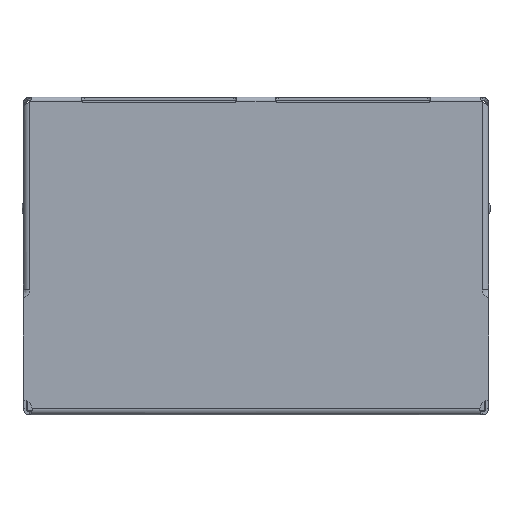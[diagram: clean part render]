
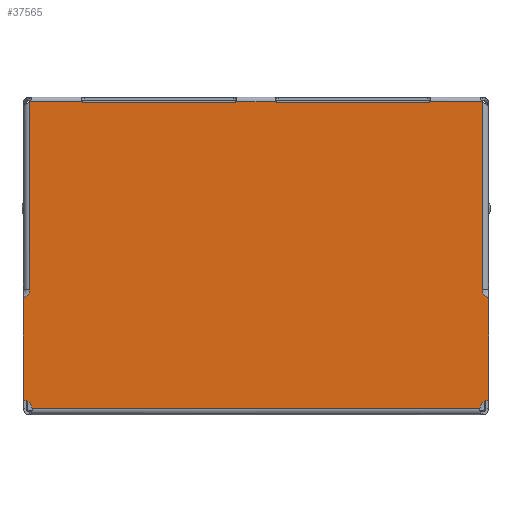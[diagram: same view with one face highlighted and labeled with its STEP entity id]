
A CAD part, front view. The second image highlights one B-rep face of the part: STEP entity #37565.
In plain terms, the highlighted planar face has unit normal (0, -1, 0) as drawn and (0, 1, 0) by its records, which use the part's own axes.
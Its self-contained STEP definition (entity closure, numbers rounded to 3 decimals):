
#32554=DIRECTION('',(1.,0.,0.));
#32555=VECTOR('',#32554,29.968);
#32556=CARTESIAN_POINT('',(-14.984,13.5,-0.2));
#32557=LINE('',#32556,#32555);
#32632=CARTESIAN_POINT('',(15.56,13.5,-0.2));
#32633=DIRECTION('',(0.,1.,0.));
#32634=DIRECTION('',(0.,0.,-1.));
#32635=AXIS2_PLACEMENT_3D('',#32632,#32633,#32634);
#32637=CARTESIAN_POINT('',(-15.56,13.5,-0.2));
#32638=DIRECTION('',(0.,1.,0.));
#32639=DIRECTION('',(1.,0.,0.));
#32640=AXIS2_PLACEMENT_3D('',#32637,#32638,#32639);
#32642=DIRECTION('',(0.,0.,1.));
#32643=VECTOR('',#32642,6.794);
#32644=CARTESIAN_POINT('',(-15.56,13.5,-7.57));
#32645=LINE('',#32644,#32643);
#32646=DIRECTION('',(0.707,0.,-0.707));
#32647=VECTOR('',#32646,0.566);
#32648=CARTESIAN_POINT('',(-15.56,13.5,-7.57));
#32649=LINE('',#32648,#32647);
#32650=DIRECTION('',(0.,0.,1.));
#32651=VECTOR('',#32650,0.2);
#32652=CARTESIAN_POINT('',(-15.16,13.5,-8.17));
#32653=LINE('',#32652,#32651);
#32654=CARTESIAN_POINT('',(-11.5,13.5,-20.899));
#32655=DIRECTION('',(0.,1.,0.));
#32656=DIRECTION('',(-0.766,0.,0.643));
#32657=AXIS2_PLACEMENT_3D('',#32654,#32655,#32656);
#32659=DIRECTION('',(-1.,0.,0.));
#32660=VECTOR('',#32659,10.);
#32661=CARTESIAN_POINT('',(-1.5,13.5,-20.699));
#32662=LINE('',#32661,#32660);
#32663=CARTESIAN_POINT('',(-1.5,13.5,-20.899));
#32664=DIRECTION('',(0.,1.,0.));
#32665=DIRECTION('',(0.,0.,1.));
#32666=AXIS2_PLACEMENT_3D('',#32663,#32664,#32665);
#32668=CARTESIAN_POINT('',(1.5,13.5,-20.899));
#32669=DIRECTION('',(0.,1.,0.));
#32670=DIRECTION('',(-0.766,0.,0.643));
#32671=AXIS2_PLACEMENT_3D('',#32668,#32669,#32670);
#32673=DIRECTION('',(-1.,0.,0.));
#32674=VECTOR('',#32673,10.);
#32675=CARTESIAN_POINT('',(11.5,13.5,-20.699));
#32676=LINE('',#32675,#32674);
#32677=CARTESIAN_POINT('',(11.5,13.5,-20.899));
#32678=DIRECTION('',(0.,1.,0.));
#32679=DIRECTION('',(0.,0.,1.));
#32680=AXIS2_PLACEMENT_3D('',#32677,#32678,#32679);
#32682=DIRECTION('',(0.,0.,1.));
#32683=VECTOR('',#32682,0.2);
#32684=CARTESIAN_POINT('',(15.16,13.5,-8.17));
#32685=LINE('',#32684,#32683);
#32686=DIRECTION('',(-0.707,0.,
-0.707));
#32687=VECTOR('',#32686,0.566);
#32688=CARTESIAN_POINT('',(15.56,13.5,-7.57));
#32689=LINE('',#32688,#32687);
#32690=DIRECTION('',(0.,0.,-1.));
#32691=VECTOR('',#32690,6.794);
#32692=CARTESIAN_POINT('',(15.56,13.5,-0.776));
#32693=LINE('',#32692,#32691);
#32703=DIRECTION('',(0.,0.,1.));
#32704=VECTOR('',#32703,12.6);
#32705=CARTESIAN_POINT('',(-15.16,13.5,-20.77));
#32706=LINE('',#32705,#32704);
#32730=CARTESIAN_POINT('',(-15.16,13.5,-20.77));
#33005=DIRECTION('',(1.,0.,0.));
#33006=VECTOR('',#33005,2.694);
#33007=CARTESIAN_POINT('',(-1.347,13.5,-20.77));
#33008=LINE('',#33007,#33006);
#33021=DIRECTION('',(1.,0.,0.));
#33022=VECTOR('',#33021,3.507);
#33023=CARTESIAN_POINT('',(11.653,13.5,-20.77));
#33024=LINE('',#33023,#33022);
#33059=DIRECTION('',(1.,0.,0.));
#33060=VECTOR('',#33059,3.507);
#33061=CARTESIAN_POINT('',(-15.16,13.5,-20.77));
#33062=LINE('',#33061,#33060);
#33103=DIRECTION('',(0.,0.,1.));
#33104=VECTOR('',#33103,12.6);
#33105=CARTESIAN_POINT('',(15.16,13.5,-20.77));
#33106=LINE('',#33105,#33104);
#33107=CARTESIAN_POINT('',(15.16,13.5,-20.77));
#36038=VERTEX_POINT('',#33107);
#36042=CARTESIAN_POINT('',(15.16,13.5,-8.17));
#36043=CARTESIAN_POINT('',(15.16,13.5,-7.97));
#36044=VERTEX_POINT('',#36042);
#36045=VERTEX_POINT('',#36043);
#36046=CARTESIAN_POINT('',(15.56,13.5,-7.57));
#36047=VERTEX_POINT('',#36046);
#36232=VERTEX_POINT('',#32730);
#36238=CARTESIAN_POINT('',(-15.16,13.5,-8.17));
#36239=CARTESIAN_POINT('',(-15.16,13.5,-7.97));
#36240=VERTEX_POINT('',#36238);
#36241=VERTEX_POINT('',#36239);
#36242=CARTESIAN_POINT('',(-15.56,13.5,-7.57));
#36243=VERTEX_POINT('',#36242);
#36630=CARTESIAN_POINT('',(-11.653,13.5,-20.77));
#36631=VERTEX_POINT('',#36630);
#36660=CARTESIAN_POINT('',(-1.5,13.5,-20.699));
#36661=CARTESIAN_POINT('',(-1.347,13.5,-20.77));
#36662=VERTEX_POINT('',#36660);
#36663=VERTEX_POINT('',#36661);
#36664=CARTESIAN_POINT('',(-11.5,13.5,-20.699));
#36665=VERTEX_POINT('',#36664);
#36666=CARTESIAN_POINT('',(11.5,13.5,-20.699));
#36667=CARTESIAN_POINT('',(11.653,13.5,-20.77));
#36668=VERTEX_POINT('',#36666);
#36669=VERTEX_POINT('',#36667);
#36670=CARTESIAN_POINT('',(1.5,13.5,-20.699));
#36671=VERTEX_POINT('',#36670);
#36672=CARTESIAN_POINT('',(1.347,13.5,-20.77));
#36673=VERTEX_POINT('',#36672);
#36708=CARTESIAN_POINT('',(15.56,13.5,-0.776));
#36709=CARTESIAN_POINT('',(14.984,13.5,-0.2));
#36710=VERTEX_POINT('',#36708);
#36711=VERTEX_POINT('',#36709);
#36712=CARTESIAN_POINT('',(-14.984,13.5,-0.2));
#36713=CARTESIAN_POINT('',(-15.56,13.5,-0.776));
#36714=VERTEX_POINT('',#36712);
#36715=VERTEX_POINT('',#36713);
#37521=CARTESIAN_POINT('',(15.56,13.5,0.2));
#37522=DIRECTION('',(0.,1.,0.));
#37523=DIRECTION('',(1.,0.,0.));
#37524=AXIS2_PLACEMENT_3D('',#37521,#37522,#37523);
#37525=PLANE('',#37524);
#37526=ORIENTED_EDGE('',*,*,#37514,.T.);
#37527=ORIENTED_EDGE('',*,*,#37399,.F.);
#37528=ORIENTED_EDGE('',*,*,#37455,.T.);
#37530=ORIENTED_EDGE('',*,*,#37529,.F.);
#37532=ORIENTED_EDGE('',*,*,#37531,.T.);
#37534=ORIENTED_EDGE('',*,*,#37533,.F.);
#37536=ORIENTED_EDGE('',*,*,#37535,.F.);
#37538=ORIENTED_EDGE('',*,*,#37537,.T.);
#37540=ORIENTED_EDGE('',*,*,#37539,.T.);
#37542=ORIENTED_EDGE('',*,*,#37541,.F.);
#37544=ORIENTED_EDGE('',*,*,#37543,.T.);
#37546=ORIENTED_EDGE('',*,*,#37545,.T.);
#37548=ORIENTED_EDGE('',*,*,#37547,.T.);
#37550=ORIENTED_EDGE('',*,*,#37549,.F.);
#37552=ORIENTED_EDGE('',*,*,#37551,.T.);
#37554=ORIENTED_EDGE('',*,*,#37553,.T.);
#37556=ORIENTED_EDGE('',*,*,#37555,.T.);
#37558=ORIENTED_EDGE('',*,*,#37557,.T.);
#37560=ORIENTED_EDGE('',*,*,#37559,.F.);
#37562=ORIENTED_EDGE('',*,*,#37561,.F.);
#37563=EDGE_LOOP('',(#37526,#37527,#37528,#37530,#37532,#37534,#37536,#37538,
#37540,#37542,#37544,#37546,#37548,#37550,#37552,#37554,#37556,#37558,#37560,
#37562));
#37564=FACE_OUTER_BOUND('',#37563,.F.);
#37565=ADVANCED_FACE('',(#37564),#37525,.T.);
#32636=CIRCLE('',#32635,0.576);
#32641=CIRCLE('',#32640,0.576);
#32658=CIRCLE('',#32657,0.2);
#32667=CIRCLE('',#32666,0.2);
#32672=CIRCLE('',#32671,0.2);
#32681=CIRCLE('',#32680,0.2);
#37399=EDGE_CURVE('',#36714,#36711,#32557,.T.);
#37455=EDGE_CURVE('',#36714,#36715,#32641,.T.);
#37514=EDGE_CURVE('',#36710,#36711,#32636,.T.);
#37529=EDGE_CURVE('',#36243,#36715,#32645,.T.);
#37531=EDGE_CURVE('',#36243,#36241,#32649,.T.);
#37533=EDGE_CURVE('',#36240,#36241,#32653,.T.);
#37535=EDGE_CURVE('',#36232,#36240,#32706,.T.);
#37537=EDGE_CURVE('',#36232,#36631,#33062,.T.);
#37539=EDGE_CURVE('',#36631,#36665,#32658,.T.);
#37541=EDGE_CURVE('',#36662,#36665,#32662,.T.);
#37543=EDGE_CURVE('',#36662,#36663,#32667,.T.);
#37545=EDGE_CURVE('',#36663,#36673,#33008,.T.);
#37547=EDGE_CURVE('',#36673,#36671,#32672,.T.);
#37549=EDGE_CURVE('',#36668,#36671,#32676,.T.);
#37551=EDGE_CURVE('',#36668,#36669,#32681,.T.);
#37553=EDGE_CURVE('',#36669,#36038,#33024,.T.);
#37555=EDGE_CURVE('',#36038,#36044,#33106,.T.);
#37557=EDGE_CURVE('',#36044,#36045,#32685,.T.);
#37559=EDGE_CURVE('',#36047,#36045,#32689,.T.);
#37561=EDGE_CURVE('',#36710,#36047,#32693,.T.);
